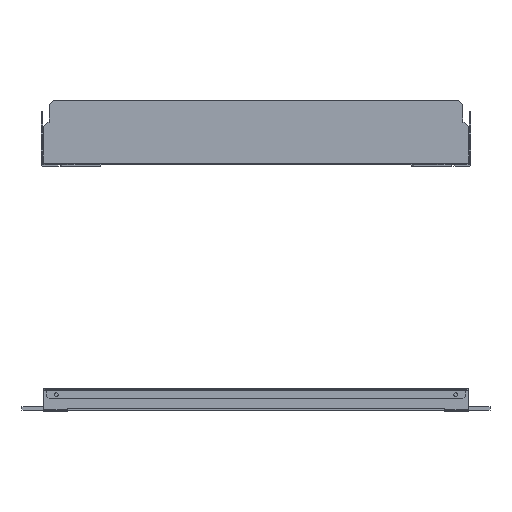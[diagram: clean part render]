
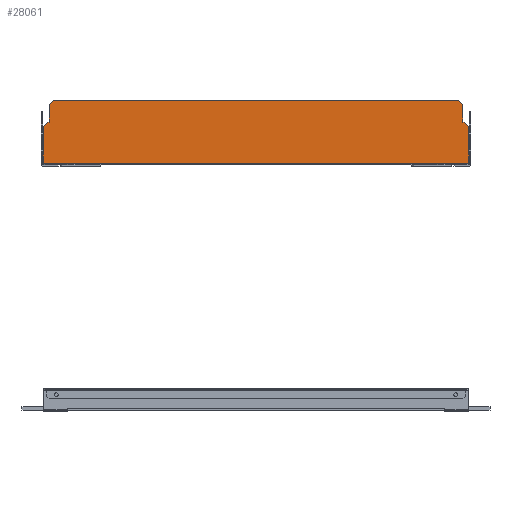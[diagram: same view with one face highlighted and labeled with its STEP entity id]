
A CAD part, front view. The second image highlights one B-rep face of the part: STEP entity #28061.
In plain terms, the highlighted planar face has unit normal (0, -1, 0).
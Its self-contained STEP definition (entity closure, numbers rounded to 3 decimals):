
#26306=CARTESIAN_POINT(' ',(247.5,-1.5,0.6));
#26307=VERTEX_POINT(' ',#26306);
#26321=CARTESIAN_POINT(' ',(247.5,-1.5,0.6));
#26326=DIRECTION(' ',(-1.,0.,0.));
#26331=VECTOR(' ',#26326,1.);
#26336=LINE('',#26321,#26331);
#26341=CARTESIAN_POINT(' ',(-247.5,-1.5,0.6));
#26342=VERTEX_POINT(' ',#26341);
#26346=EDGE_CURVE(' ',#26307,#26342,#26336,.T.);
#26486=CARTESIAN_POINT(' ',(247.5,-1.5,43.5));
#26487=VERTEX_POINT(' ',#26486);
#26501=CARTESIAN_POINT(' ',(247.5,-1.5,43.5));
#26506=DIRECTION(' ',(0.,0.,-1.));
#26511=VECTOR(' ',#26506,1.);
#26516=LINE('',#26501,#26511);
#26521=EDGE_CURVE(' ',#26487,#26307,#26516,.T.);
#27101=CARTESIAN_POINT(' ',(-247.5,-1.5,0.6));
#27106=DIRECTION(' ',(0.,0.,1.));
#27111=VECTOR(' ',#27106,1.);
#27116=LINE('',#27101,#27111);
#27121=CARTESIAN_POINT(' ',(-247.5,-1.5,43.5));
#27122=VERTEX_POINT(' ',#27121);
#27126=EDGE_CURVE(' ',#26342,#27122,#27116,.T.);
#27701=DIRECTION(' ',(0.,-1.,0.));
#27706=CARTESIAN_POINT(' ',(-247.5,-1.5,73.5));
#27711=DIRECTION(' ',(0.,0.,-1.));
#27716=AXIS2_PLACEMENT_3D(' ',#27706,#27701,#27711);
#27721=PLANE('NONE',#27716);
#27726=ORIENTED_EDGE(' ',*,*,#26521,.F.);
#27731=CARTESIAN_POINT(' ',(247.5,-1.5,43.5));
#27736=DIRECTION(' ',(-0.707,0.,0.707));
#27741=VECTOR(' ',#27736,1.);
#27746=LINE('',#27731,#27741);
#27751=CARTESIAN_POINT(' ',(242.5,-1.5,48.5));
#27752=VERTEX_POINT(' ',#27751);
#27756=EDGE_CURVE(' ',#26487,#27752,#27746,.T.);
#27761=ORIENTED_EDGE(' ',*,*,#27756,.T.);
#27766=CARTESIAN_POINT(' ',(240.5,-1.5,48.5));
#27771=DIRECTION(' ',(1.,0.,0.));
#27776=VECTOR(' ',#27771,1.);
#27781=LINE('',#27766,#27776);
#27786=CARTESIAN_POINT(' ',(240.5,-1.5,48.5));
#27787=VERTEX_POINT(' ',#27786);
#27791=EDGE_CURVE(' ',#27787,#27752,#27781,.T.);
#27796=ORIENTED_EDGE(' ',*,*,#27791,.F.);
#27801=CARTESIAN_POINT(' ',(240.5,-1.5,48.5));
#27806=DIRECTION(' ',(0.,0.,1.));
#27811=VECTOR(' ',#27806,1.);
#27816=LINE('',#27801,#27811);
#27821=CARTESIAN_POINT(' ',(240.5,-1.5,68.5));
#27822=VERTEX_POINT(' ',#27821);
#27826=EDGE_CURVE(' ',#27787,#27822,#27816,.T.);
#27831=ORIENTED_EDGE(' ',*,*,#27826,.T.);
#27836=CARTESIAN_POINT(' ',(240.5,-1.5,68.5));
#27841=DIRECTION(' ',(-0.707,0.,0.707));
#27846=VECTOR(' ',#27841,1.);
#27851=LINE('',#27836,#27846);
#27856=CARTESIAN_POINT(' ',(235.5,-1.5,73.5));
#27857=VERTEX_POINT(' ',#27856);
#27861=EDGE_CURVE(' ',#27822,#27857,#27851,.T.);
#27866=ORIENTED_EDGE(' ',*,*,#27861,.T.);
#27871=CARTESIAN_POINT(' ',(235.5,-1.5,73.5));
#27876=DIRECTION(' ',(-1.,0.,0.));
#27881=VECTOR(' ',#27876,1.);
#27886=LINE('',#27871,#27881);
#27891=CARTESIAN_POINT(' ',(-235.5,-1.5,73.5));
#27892=VERTEX_POINT(' ',#27891);
#27896=EDGE_CURVE(' ',#27857,#27892,#27886,.T.);
#27901=ORIENTED_EDGE(' ',*,*,#27896,.T.);
#27906=CARTESIAN_POINT(' ',(-235.5,-1.5,73.5));
#27911=DIRECTION(' ',(-0.707,0.,-0.707));
#27916=VECTOR(' ',#27911,1.);
#27921=LINE('',#27906,#27916);
#27926=CARTESIAN_POINT(' ',(-240.5,-1.5,68.5));
#27927=VERTEX_POINT(' ',#27926);
#27931=EDGE_CURVE(' ',#27892,#27927,#27921,.T.);
#27936=ORIENTED_EDGE(' ',*,*,#27931,.T.);
#27941=CARTESIAN_POINT(' ',(-240.5,-1.5,48.5));
#27946=DIRECTION(' ',(0.,0.,1.));
#27951=VECTOR(' ',#27946,1.);
#27956=LINE('',#27941,#27951);
#27961=CARTESIAN_POINT(' ',(-240.5,-1.5,48.5));
#27962=VERTEX_POINT(' ',#27961);
#27966=EDGE_CURVE(' ',#27962,#27927,#27956,.T.);
#27971=ORIENTED_EDGE(' ',*,*,#27966,.F.);
#27976=CARTESIAN_POINT(' ',(-240.5,-1.5,48.5));
#27981=DIRECTION(' ',(-1.,0.,0.));
#27986=VECTOR(' ',#27981,1.);
#27991=LINE('',#27976,#27986);
#27996=CARTESIAN_POINT(' ',(-242.5,-1.5,48.5));
#27997=VERTEX_POINT(' ',#27996);
#28001=EDGE_CURVE(' ',#27962,#27997,#27991,.T.);
#28006=ORIENTED_EDGE(' ',*,*,#28001,.T.);
#28011=CARTESIAN_POINT(' ',(-242.5,-1.5,48.5));
#28016=DIRECTION(' ',(-0.707,0.,-0.707));
#28021=VECTOR(' ',#28016,1.);
#28026=LINE('',#28011,#28021);
#28031=EDGE_CURVE(' ',#27997,#27122,#28026,.T.);
#28036=ORIENTED_EDGE(' ',*,*,#28031,.T.);
#28041=ORIENTED_EDGE(' ',*,*,#27126,.F.);
#28046=ORIENTED_EDGE(' ',*,*,#26346,.F.);
#28051=EDGE_LOOP(' ',(#27726,#27761,#27796,#27831,#27866,#27901,#27936,#27971,#28006,#28036,#28041,#28046));
#28056=FACE_OUTER_BOUND(' ',#28051,.T.);
#28061=ADVANCED_FACE('NONE',(#28056),#27721,.T.);
